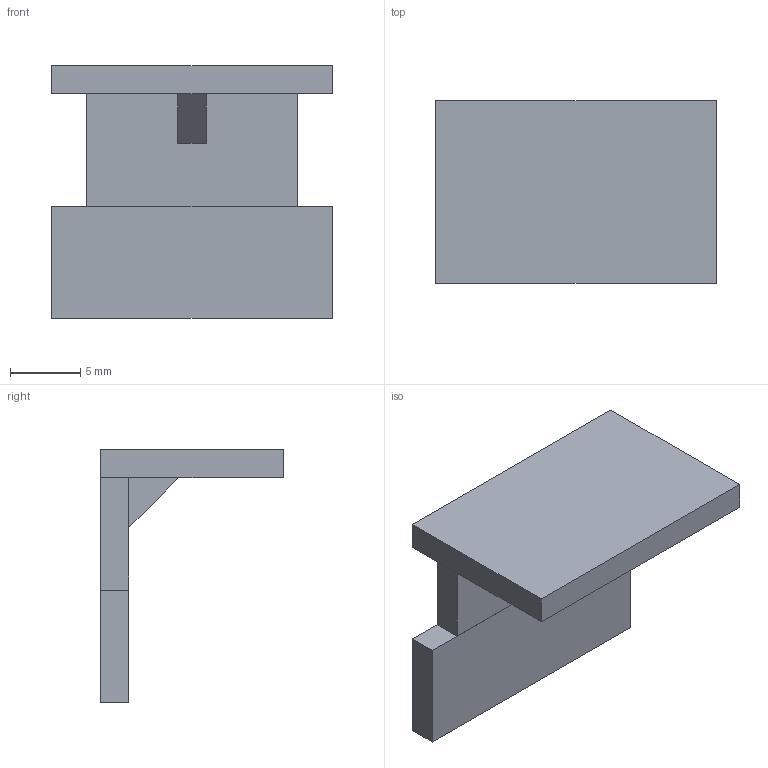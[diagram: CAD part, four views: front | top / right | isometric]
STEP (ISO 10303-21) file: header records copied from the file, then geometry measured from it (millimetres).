
FILE_DESCRIPTION (( 'STEP AP214' ), '1' );
FILE_NAME ('002316.STEP', '2022-02-21T08:14:24', ( '' ), ( '' ), 'SwSTEP 2.0', 'SolidWorks 2021', '' );
FILE_SCHEMA (( 'AUTOMOTIVE_DESIGN' ));
Length unit declared in the file: millimetre
Products named in the file (1): 002316
Bounding box: 20 x 13 x 18 mm (x, y, z)
Volume: 1092.5 mm3; surface area: 1364.4 mm2
Topology: 2 solids, 2 shells, 19 faces, 45 edges, 30 vertices
Faces by surface type: plane 19
Entity records: 582 total; most frequent: CARTESIAN_POINT 95, ORIENTED_EDGE 90, DIRECTION 85, EDGE_CURVE 45, LINE 45, VECTOR 45, VERTEX_POINT 30, AXIS2_PLACEMENT_3D 20
